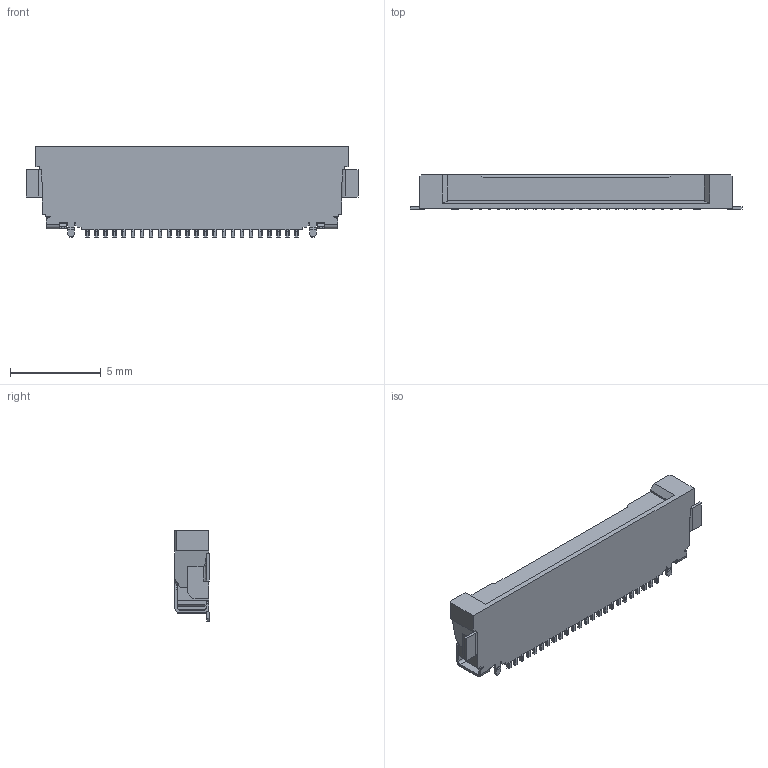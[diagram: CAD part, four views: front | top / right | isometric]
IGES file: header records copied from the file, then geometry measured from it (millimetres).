
Start section: SolidWorks IGES file using analytic representation for surfaces
Global section: file name: C:\3dworks\扟愳\151224 EVA5-VS 15P 24P 3D僨乕僞\20535-024ExxxC Assy IGES R5 ALL.IGS; native system: SolidWorks 2012; preprocessor: SolidWorks 2012; author: ieng2-005; date: 151224.215451; units: millimetre
Bounding box: 18.25 x 1.9 x 4.95 mm (x, y, z)
Surface area: 250.6 mm2 (no closed solid volume)
Topology: 0 solids, 0 shells, 442 faces, 2826 edges, 2826 vertices
Faces by surface type: bspline 290, revolution 152
